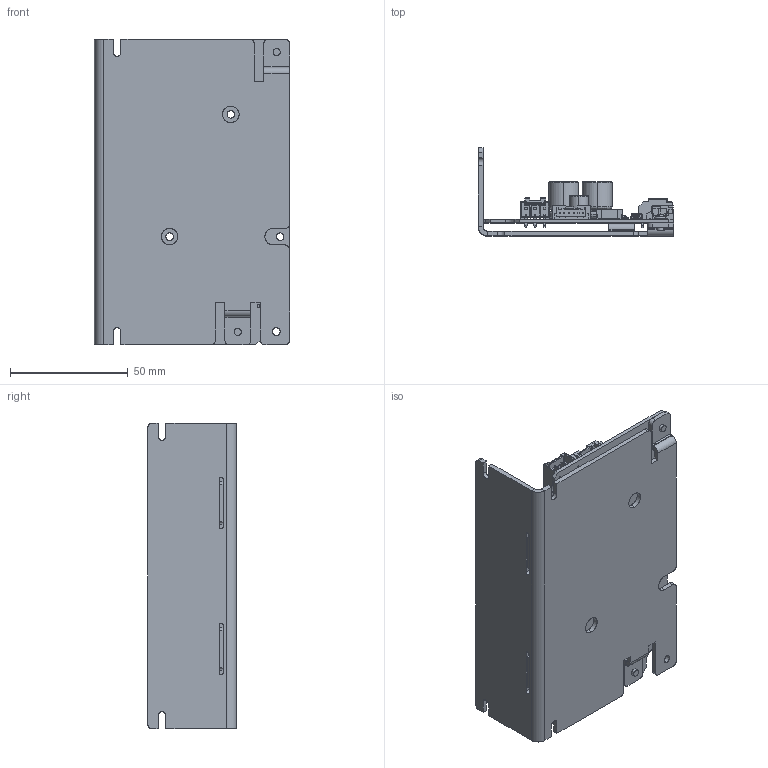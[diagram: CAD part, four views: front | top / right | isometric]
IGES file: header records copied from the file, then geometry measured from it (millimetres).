
Start section: SolidWorks IGES file using analytic representation for surfaces
Bounding box: 83 x 37.5 x 130 mm (x, y, z)
Surface area: 60478.2 mm2 (no closed solid volume)
Topology: 0 solids, 0 shells, 2412 faces, 17765 edges, 17741 vertices
Faces by surface type: bspline 1800, revolution 612
